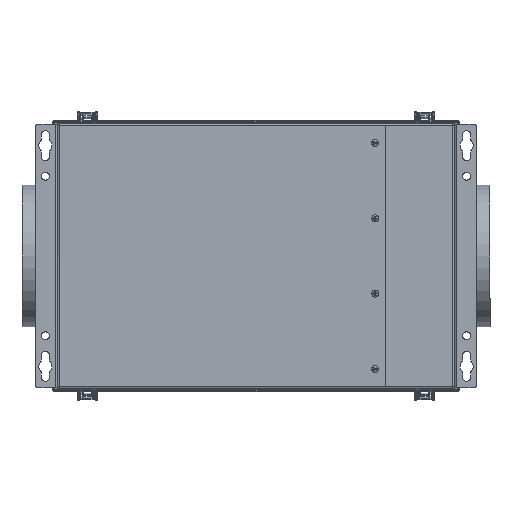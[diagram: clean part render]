
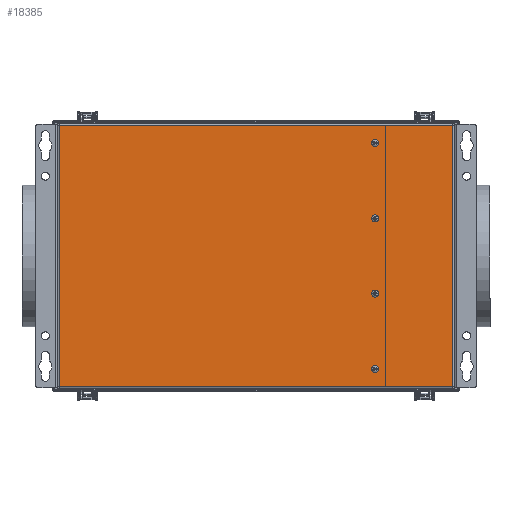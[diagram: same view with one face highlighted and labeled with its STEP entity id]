
A CAD part, front view. The second image highlights one B-rep face of the part: STEP entity #18385.
In plain terms, the highlighted planar face has unit normal (0, -1, 0).
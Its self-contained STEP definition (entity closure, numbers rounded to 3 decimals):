
#43 = EDGE_LOOP ( 'NONE', ( #1632, #3242, #26022, #11498 ) ) ;
#904 = EDGE_CURVE ( 'NONE', #2711, #25073, #3481, .T. ) ;
#1632 = ORIENTED_EDGE ( 'NONE', *, *, #12134, .T. ) ;
#1677 = VECTOR ( 'NONE', #22940, 1000. ) ;
#1949 = ORIENTED_EDGE ( 'NONE', *, *, #3302, .F. ) ;
#2004 = ORIENTED_EDGE ( 'NONE', *, *, #10735, .F. ) ;
#2540 = ORIENTED_EDGE ( 'NONE', *, *, #18949, .F. ) ;
#2711 = VERTEX_POINT ( 'NONE', #5048 ) ;
#2996 = LINE ( 'NONE', #15523, #26649 ) ;
#3030 = EDGE_CURVE ( 'NONE', #7115, #13109, #10494, .T. ) ;
#3131 = ORIENTED_EDGE ( 'NONE', *, *, #14334, .F. ) ;
#3188 = CIRCLE ( 'NONE', #11975, 2.1 ) ;
#3242 = ORIENTED_EDGE ( 'NONE', *, *, #17523, .T. ) ;
#3302 = EDGE_CURVE ( 'NONE', #25073, #2711, #14726, .T. ) ;
#3481 = CIRCLE ( 'NONE', #25785, 2.1 ) ;
#4556 = CARTESIAN_POINT ( 'NONE',  ( 135., 0., 130.1 ) ) ;
#4625 = CARTESIAN_POINT ( 'NONE',  ( 223., 0., -148. ) ) ;
#4819 = FACE_BOUND ( 'NONE', #19671, .T. ) ;
#4837 = VERTEX_POINT ( 'NONE', #21286 ) ;
#5048 = CARTESIAN_POINT ( 'NONE',  ( 135., 0., -40.567 ) ) ;
#5124 = DIRECTION ( 'NONE',  ( 0., -1., 0. ) ) ;
#5533 = VECTOR ( 'NONE', #10574, 1000. ) ;
#5537 = FACE_BOUND ( 'NONE', #14556, .T. ) ;
#5546 = CIRCLE ( 'NONE', #11143, 2.1 ) ;
#5688 = DIRECTION ( 'NONE',  ( 0., -1., 0. ) ) ;
#5853 = EDGE_CURVE ( 'NONE', #15445, #4837, #16055, .T. ) ;
#6329 = EDGE_CURVE ( 'NONE', #4837, #21521, #14298, .T. ) ;
#6481 = ORIENTED_EDGE ( 'NONE', *, *, #11799, .F. ) ;
#6772 = CARTESIAN_POINT ( 'NONE',  ( -223., 0., -148. ) ) ;
#7115 = VERTEX_POINT ( 'NONE', #23450 ) ;
#7262 = CARTESIAN_POINT ( 'NONE',  ( 135., 0., 128. ) ) ;
#8008 = DIRECTION ( 'NONE',  ( 0., 0., -1. ) ) ;
#8269 = CARTESIAN_POINT ( 'NONE',  ( -225., 0., -148. ) ) ;
#8272 = AXIS2_PLACEMENT_3D ( 'NONE', #21684, #10330, #26268 ) ;
#9206 = DIRECTION ( 'NONE',  ( 0., -1., 0. ) ) ;
#9541 = DIRECTION ( 'NONE',  ( 0., 0., -1. ) ) ;
#9763 = DIRECTION ( 'NONE',  ( 0., -1., 0. ) ) ;
#10330 = DIRECTION ( 'NONE',  ( 0., 1., 0. ) ) ;
#10494 = CIRCLE ( 'NONE', #26806, 2.1 ) ;
#10574 = DIRECTION ( 'NONE',  ( 1., 0., 0. ) ) ;
#10662 = VERTEX_POINT ( 'NONE', #13938 ) ;
#10735 = EDGE_CURVE ( 'NONE', #23569, #22727, #24570, .T. ) ;
#10904 = CARTESIAN_POINT ( 'NONE',  ( 135., 0., -128. ) ) ;
#10929 = FACE_BOUND ( 'NONE', #13177, .T. ) ;
#11143 = AXIS2_PLACEMENT_3D ( 'NONE', #11558, #27545, #13848 ) ;
#11498 = ORIENTED_EDGE ( 'NONE', *, *, #6329, .T. ) ;
#11558 = CARTESIAN_POINT ( 'NONE',  ( 135., 0., 128. ) ) ;
#11799 = EDGE_CURVE ( 'NONE', #10662, #18637, #5546, .T. ) ;
#11975 = AXIS2_PLACEMENT_3D ( 'NONE', #7262, #23231, #9541 ) ;
#12134 = EDGE_CURVE ( 'NONE', #21521, #26241, #2996, .T. ) ;
#12303 = CARTESIAN_POINT ( 'NONE',  ( 135., 0., -125.9 ) ) ;
#12328 = CARTESIAN_POINT ( 'NONE',  ( 135., 0., -44.767 ) ) ;
#12393 = PLANE ( 'NONE',  #8272 ) ;
#12421 = CARTESIAN_POINT ( 'NONE',  ( -223., 0., 148. ) ) ;
#12857 = VECTOR ( 'NONE', #15891, 1000. ) ;
#13041 = CARTESIAN_POINT ( 'NONE',  ( 135., 0., -128. ) ) ;
#13109 = VERTEX_POINT ( 'NONE', #12303 ) ;
#13177 = EDGE_LOOP ( 'NONE', ( #1949, #18568 ) ) ;
#13848 = DIRECTION ( 'NONE',  ( 0., 0., -1. ) ) ;
#13938 = CARTESIAN_POINT ( 'NONE',  ( 135., 0., 125.9 ) ) ;
#14298 = LINE ( 'NONE', #29587, #12857 ) ;
#14334 = EDGE_CURVE ( 'NONE', #18637, #10662, #3188, .T. ) ;
#14556 = EDGE_LOOP ( 'NONE', ( #6481, #3131 ) ) ;
#14726 = CIRCLE ( 'NONE', #27746, 2.1 ) ;
#14812 = CIRCLE ( 'NONE', #27044, 2.1 ) ;
#15338 = DIRECTION ( 'NONE',  ( 0., 0., -1. ) ) ;
#15445 = VERTEX_POINT ( 'NONE', #29307 ) ;
#15523 = CARTESIAN_POINT ( 'NONE',  ( -223., 0., 148. ) ) ;
#15891 = DIRECTION ( 'NONE',  ( -1., 0., 0. ) ) ;
#16020 = CARTESIAN_POINT ( 'NONE',  ( 135., 0., -42.667 ) ) ;
#16055 = LINE ( 'NONE', #4625, #1677 ) ;
#16410 = DIRECTION ( 'NONE',  ( 0., -1., 0. ) ) ;
#16806 = DIRECTION ( 'NONE',  ( 0., 0., -1. ) ) ;
#17317 = AXIS2_PLACEMENT_3D ( 'NONE', #23430, #9763, #25727 ) ;
#17523 = EDGE_CURVE ( 'NONE', #26241, #15445, #23788, .T. ) ;
#17820 = EDGE_LOOP ( 'NONE', ( #21757, #2540 ) ) ;
#18385 = ADVANCED_FACE ( 'NONE', ( #4819, #5537, #23082, #10929, #28424 ), #12393, .F. ) ;
#18568 = ORIENTED_EDGE ( 'NONE', *, *, #904, .F. ) ;
#18637 = VERTEX_POINT ( 'NONE', #4556 ) ;
#18847 = ORIENTED_EDGE ( 'NONE', *, *, #20847, .F. ) ;
#18850 = CARTESIAN_POINT ( 'NONE',  ( 135., 0., 42.667 ) ) ;
#18949 = EDGE_CURVE ( 'NONE', #13109, #7115, #14812, .T. ) ;
#19407 = CARTESIAN_POINT ( 'NONE',  ( 135., 0., -42.667 ) ) ;
#19671 = EDGE_LOOP ( 'NONE', ( #2004, #18847 ) ) ;
#20652 = CARTESIAN_POINT ( 'NONE',  ( 135., 0., 44.767 ) ) ;
#20847 = EDGE_CURVE ( 'NONE', #22727, #23569, #22220, .T. ) ;
#21136 = DIRECTION ( 'NONE',  ( 0., 0., -1. ) ) ;
#21286 = CARTESIAN_POINT ( 'NONE',  ( 223., 0., 148. ) ) ;
#21521 = VERTEX_POINT ( 'NONE', #12421 ) ;
#21684 = CARTESIAN_POINT ( 'NONE',  ( -225., 0., 150. ) ) ;
#21757 = ORIENTED_EDGE ( 'NONE', *, *, #3030, .F. ) ;
#21977 = CARTESIAN_POINT ( 'NONE',  ( 135., 0., 40.567 ) ) ;
#22220 = CIRCLE ( 'NONE', #17317, 2.1 ) ;
#22431 = DIRECTION ( 'NONE',  ( 0., 0., -1. ) ) ;
#22727 = VERTEX_POINT ( 'NONE', #20652 ) ;
#22893 = DIRECTION ( 'NONE',  ( 0., 0., -1. ) ) ;
#22940 = DIRECTION ( 'NONE',  ( 0., 0., 1. ) ) ;
#23082 = FACE_OUTER_BOUND ( 'NONE', #43, .T. ) ;
#23231 = DIRECTION ( 'NONE',  ( 0., -1., 0. ) ) ;
#23430 = CARTESIAN_POINT ( 'NONE',  ( 135., 0., 42.667 ) ) ;
#23450 = CARTESIAN_POINT ( 'NONE',  ( 135., 0., -130.1 ) ) ;
#23569 = VERTEX_POINT ( 'NONE', #21977 ) ;
#23788 = LINE ( 'NONE', #8269, #5533 ) ;
#24570 = CIRCLE ( 'NONE', #25819, 2.1 ) ;
#25073 = VERTEX_POINT ( 'NONE', #12328 ) ;
#25727 = DIRECTION ( 'NONE',  ( 0., 0., -1. ) ) ;
#25785 = AXIS2_PLACEMENT_3D ( 'NONE', #19407, #5688, #8008 ) ;
#25819 = AXIS2_PLACEMENT_3D ( 'NONE', #18850, #5124, #21136 ) ;
#26022 = ORIENTED_EDGE ( 'NONE', *, *, #5853, .T. ) ;
#26241 = VERTEX_POINT ( 'NONE', #6772 ) ;
#26268 = DIRECTION ( 'NONE',  ( 0., 0., 1. ) ) ;
#26649 = VECTOR ( 'NONE', #22431, 1000. ) ;
#26806 = AXIS2_PLACEMENT_3D ( 'NONE', #10904, #9206, #22893 ) ;
#27044 = AXIS2_PLACEMENT_3D ( 'NONE', #13041, #29031, #15338 ) ;
#27545 = DIRECTION ( 'NONE',  ( 0., -1., 0. ) ) ;
#27746 = AXIS2_PLACEMENT_3D ( 'NONE', #16020, #16410, #16806 ) ;
#28424 = FACE_BOUND ( 'NONE', #17820, .T. ) ;
#29031 = DIRECTION ( 'NONE',  ( 0., -1., 0. ) ) ;
#29307 = CARTESIAN_POINT ( 'NONE',  ( 223., 0., -148. ) ) ;
#29587 = CARTESIAN_POINT ( 'NONE',  ( 225., 0., 148. ) ) ;
